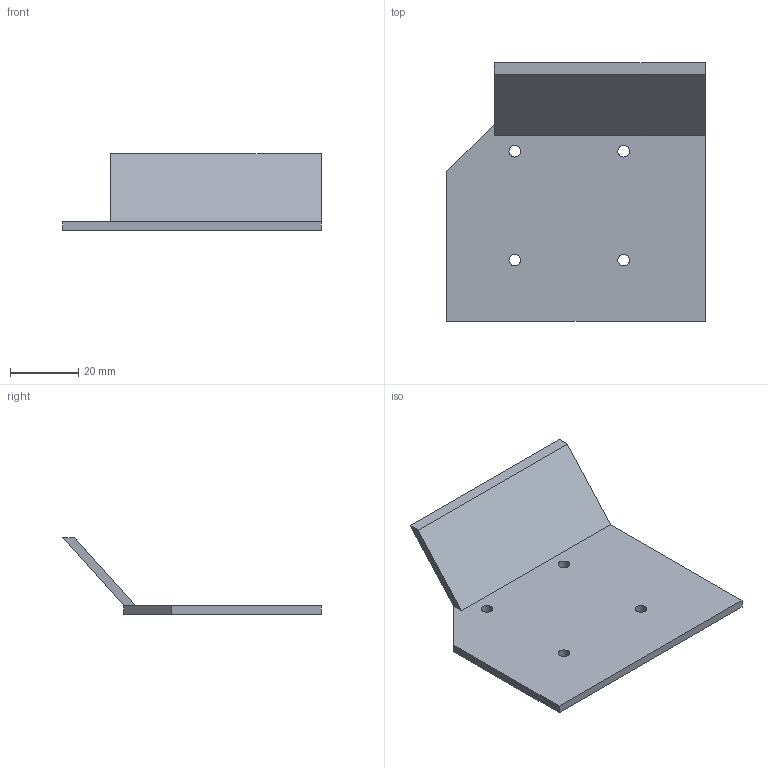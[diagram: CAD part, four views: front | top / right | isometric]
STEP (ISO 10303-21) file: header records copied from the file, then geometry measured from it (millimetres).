
FILE_DESCRIPTION(('Open CASCADE Model'),'2;1');
FILE_NAME('Open CASCADE Shape Model','2026-11-26T11:36:20',('Author'),( 'Open CASCADE'),'Open CASCADE STEP processor 8.0','build123d', 'Unknown');
FILE_SCHEMA(('AUTOMOTIVE_DESIGN { 1 0 10303 214 1 1 1 1 }'));
Length unit declared in the file: millimetre
Products named in the file (2): =>[0:1:1:2]; COMPOUND
Assembly tree (1 placements, depth 2):
  =>[0:1:1:2]
    COMPOUND
Bounding box: 76 x 76 x 22.4 mm (x, y, z)
Volume: 14472.8 mm3; surface area: 12745.9 mm2
Topology: 1 solids, 1 shells, 15 faces, 37 edges, 24 vertices
Faces by surface type: plane 11, cylinder 4
Full cylindrical faces by diameter (mm): 3.4 x4
Entity records: 992 total; most frequent: CARTESIAN_POINT 200, DIRECTION 145, LINE 95, VECTOR 95, ORIENTED_EDGE 74, PCURVE 74, DEFINITIONAL_REPRESENTATION 74, EDGE_CURVE 37
